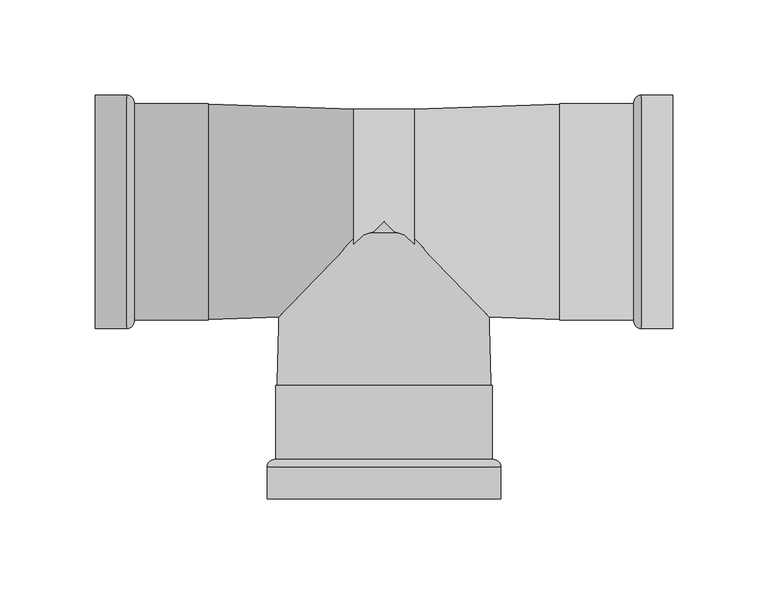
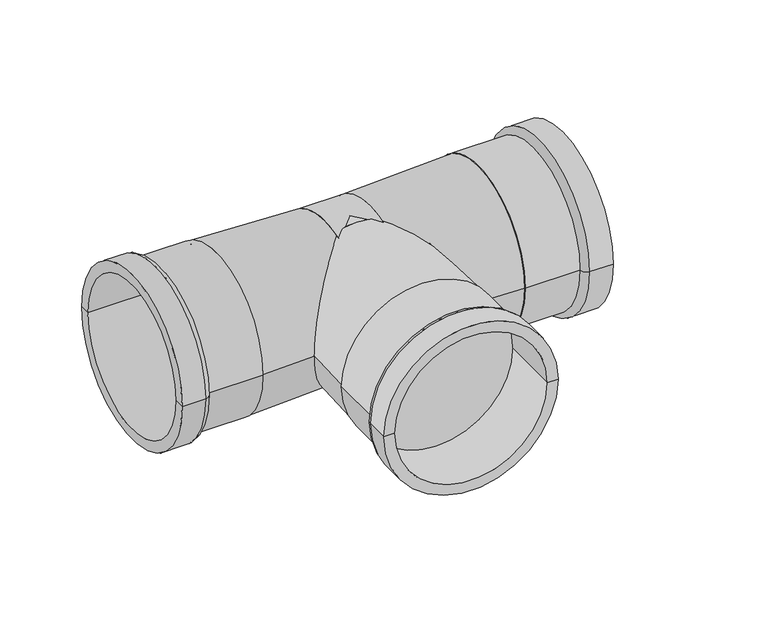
"""IFC4 building model written with IfcOpenShell, lengths in millimetres: pipe fitting geometry, VALTEC_VTi.931.I_Тройник_Ннержавеющая сталь : VTi.931.I."""

from ifc_helpers import new_model, si_unit, point, frame, origin, origin_2d, place, context, project, spatial, polyline, circle_curve, ellipse_curve, trimmed, segment, composite_curve, outline, extrude, source, transform, mapped, element, save
from ifc_brep_helpers import plane_surface, cylinder_surface, revolved_surface, advanced_brep


def pipe_fitting_a23f0387(model_context):
    return source(origin(), model_context, "Body", "SolidModel", [
        advanced_brep(
        [(-54.0, -151.0, 0.0), (-61.5, -151.0, 0.0), (61.5, -151.0, 0.0), (54.0, -151.0, 0.0), (-54.0, -91.5, 0.0), (54.0, -91.5, 0.0), (-57.0, -91.5, 0.0), (57.0, -91.5, 0.0), (-57.0, -130.28, 0.0), (57.0, -130.28, 0.0), (-61.5, -134.3, 0.0), (61.5, -134.3, 0.0)],
        [
            (0, 1),
            (1, 2, circle_curve(frame((0.0, -151.0, 0.0), z_axis=(0.0, -1.0, 0.0), x_axis=(1.0, 0.0, 0.0)), 61.5)),
            (2, 3),
            (3, 0, circle_curve(frame((0.0, -151.0, 0.0), z_axis=(0.0, 1.0, 0.0), x_axis=(1.0, 0.0, 0.0)), 54.0)),
            (2, 1, circle_curve(frame((0.0, -151.0, 0.0), z_axis=(0.0, -1.0, 0.0), x_axis=(1.0, 0.0, 0.0)), 61.5)),
            (0, 3, circle_curve(frame((0.0, -151.0, 0.0), z_axis=(0.0, 1.0, 0.0), x_axis=(1.0, 0.0, 0.0)), 54.0)),
            (4, 0),
            (3, 5),
            (5, 4, circle_curve(frame((0.0, -91.5, 0.0), z_axis=(0.0, 1.0, 0.0), x_axis=(1.0, 0.0, 0.0)), 54.0)),
            (4, 5, circle_curve(frame((0.0, -91.5, 0.0), z_axis=(0.0, 1.0, 0.0), x_axis=(1.0, 0.0, 0.0)), 54.0)),
            (6, 4),
            (5, 7),
            (7, 6, circle_curve(frame((0.0, -91.5, 0.0), z_axis=(0.0, 1.0, 0.0), x_axis=(1.0, 0.0, 0.0)), 57.0)),
            (6, 7, circle_curve(frame((0.0, -91.5, 0.0), z_axis=(0.0, 1.0, 0.0), x_axis=(1.0, 0.0, 0.0)), 57.0)),
            (8, 6),
            (7, 9),
            (9, 8, circle_curve(frame((0.0, -130.28, 0.0), z_axis=(0.0, 1.0, 0.0), x_axis=(1.0, 0.0, 0.0)), 57.0)),
            (8, 9, circle_curve(frame((0.0, -130.28, 0.0), z_axis=(0.0, 1.0, 0.0), x_axis=(1.0, 0.0, 0.0)), 57.0)),
            (10, 8, circle_curve(frame((-57.112345, -134.6828974, 0.0), z_axis=(0.0, 0.0, -1.0), x_axis=(0.0, 1.0, 0.0)), 4.4043305)),
            (9, 11, circle_curve(frame((57.112345, -134.6828974, 0.0), z_axis=(0.0, 0.0, -1.0), x_axis=(0.0, 1.0, 0.0)), 4.4043305)),
            (11, 10, circle_curve(frame((0.0, -134.3, 0.0), z_axis=(0.0, 1.0, 0.0), x_axis=(1.0, 0.0, 0.0)), 61.5)),
            (10, 11, circle_curve(frame((0.0, -134.3, 0.0), z_axis=(0.0, 1.0, 0.0), x_axis=(1.0, 0.0, 0.0)), 61.5)),
            (1, 10),
            (11, 2),
        ],
        [
            plane_surface(frame((0.0, -151.0, 0.0), z_axis=(0.0, -1.0, 0.0), x_axis=(1.0, 0.0, 0.0))),
            revolved_surface(polyline([(54.0, -151.0, 0.0), (54.0, -91.5, 0.0)]), (0.0, -120.6806392, 0.0), (0.0, -1.0, 0.0)),
            plane_surface(frame((0.0, -91.5, 0.0), z_axis=(0.0, 1.0, 0.0), x_axis=(1.0, 0.0, 0.0))),
            cylinder_surface(frame((0.0, -120.6806392, 0.0), z_axis=(0.0, -1.0, 0.0), x_axis=(1.0, 0.0, 0.0)), 57.0),
            revolved_surface(trimmed(ellipse_curve(frame((57.112345, -134.6828974, 0.0), z_axis=(0.0, 0.0, -1.0), x_axis=(0.0, 1.0, 0.0)), 4.4043305, 4.4043305), [point((57.0, -130.28, 0.0))], [point((61.5, -134.3, 0.0))], True, "CARTESIAN"), (0.0, -120.6806392, 0.0), (0.0, -1.0, 0.0)),
            cylinder_surface(frame((0.0, -120.6806392, 0.0), z_axis=(0.0, -1.0, 0.0), x_axis=(1.0, 0.0, 0.0)), 61.5),
        ],
        [
            (0, [[1, 2, 3, 4]]),
            (0, [[-3, 5, -1, 6]]),
            (1, [[7, -4, 8, 9]]),
            (1, [[-8, -6, -7, 10]]),
            (2, [[11, -9, 12, 13]]),
            (2, [[-12, -10, -11, 14]]),
            (3, [[15, -13, 16, 17]]),
            (3, [[-16, -14, -15, 18]]),
            (4, [[19, -17, 20, 21]]),
            (4, [[-20, -18, -19, 22]]),
            (5, [[23, -21, 24, -2]]),
            (5, [[-24, -22, -23, -5]]),
        ],
    ),
        advanced_brep(
        [(152.0, -54.0, 0.0), (152.0, -61.5, 0.0), (152.0, 61.5, 0.0), (152.0, 54.0, 0.0), (92.5, -54.0, 0.0), (92.5, 54.0, 0.0), (92.5, -57.0, 0.0), (92.5, 57.0, 0.0), (131.28, -57.0, 0.0), (131.28, 57.0, 0.0), (135.3, -61.5, 0.0), (135.3, 61.5, 0.0)],
        [
            (0, 1),
            (1, 2, circle_curve(frame((152.0, 0.0, 0.0), z_axis=(1.0, 0.0, 0.0), x_axis=(0.0, 1.0, 0.0)), 61.5)),
            (2, 3),
            (3, 0, circle_curve(frame((152.0, 0.0, 0.0), z_axis=(-1.0, 0.0, 0.0), x_axis=(0.0, 1.0, 0.0)), 54.0)),
            (2, 1, circle_curve(frame((152.0, 0.0, 0.0), z_axis=(1.0, 0.0, 0.0), x_axis=(0.0, 1.0, 0.0)), 61.5)),
            (0, 3, circle_curve(frame((152.0, 0.0, 0.0), z_axis=(-1.0, 0.0, 0.0), x_axis=(0.0, 1.0, 0.0)), 54.0)),
            (4, 0),
            (3, 5),
            (5, 4, circle_curve(frame((92.5, 0.0, 0.0), z_axis=(-1.0, 0.0, 0.0), x_axis=(0.0, 1.0, 0.0)), 54.0)),
            (4, 5, circle_curve(frame((92.5, 0.0, 0.0), z_axis=(-1.0, 0.0, 0.0), x_axis=(0.0, 1.0, 0.0)), 54.0)),
            (6, 4),
            (5, 7),
            (7, 6, circle_curve(frame((92.5, 0.0, 0.0), z_axis=(-1.0, 0.0, 0.0), x_axis=(0.0, 1.0, 0.0)), 57.0)),
            (6, 7, circle_curve(frame((92.5, 0.0, 0.0), z_axis=(-1.0, 0.0, 0.0), x_axis=(0.0, 1.0, 0.0)), 57.0)),
            (8, 6),
            (7, 9),
            (9, 8, circle_curve(frame((131.28, 0.0, 0.0), z_axis=(-1.0, 0.0, 0.0), x_axis=(0.0, 1.0, 0.0)), 57.0)),
            (8, 9, circle_curve(frame((131.28, 0.0, 0.0), z_axis=(-1.0, 0.0, 0.0), x_axis=(0.0, 1.0, 0.0)), 57.0)),
            (10, 8, circle_curve(frame((135.6828974, -57.112345, 0.0), z_axis=(0.0, 0.0, -1.0), x_axis=(-1.0, 0.0, 0.0)), 4.4043305)),
            (9, 11, circle_curve(frame((135.6828974, 57.112345, 0.0), z_axis=(0.0, 0.0, -1.0), x_axis=(-1.0, 0.0, 0.0)), 4.4043305)),
            (11, 10, circle_curve(frame((135.3, 0.0, 0.0), z_axis=(-1.0, 0.0, 0.0), x_axis=(0.0, 1.0, 0.0)), 61.5)),
            (10, 11, circle_curve(frame((135.3, 0.0, 0.0), z_axis=(-1.0, 0.0, 0.0), x_axis=(0.0, 1.0, 0.0)), 61.5)),
            (1, 10),
            (11, 2),
        ],
        [
            plane_surface(frame((152.0, 0.0, 0.0), z_axis=(1.0, 0.0, 0.0), x_axis=(0.0, 1.0, 0.0))),
            revolved_surface(polyline([(152.0, 54.0, 0.0), (92.5, 54.0, 0.0)]), (121.6806392, 0.0, 0.0), (1.0, 0.0, 0.0)),
            plane_surface(frame((92.5, 0.0, 0.0), z_axis=(-1.0, 0.0, 0.0), x_axis=(0.0, 1.0, 0.0))),
            cylinder_surface(frame((121.6806392, 0.0, 0.0), z_axis=(1.0, 0.0, 0.0), x_axis=(0.0, 1.0, 0.0)), 57.0),
            revolved_surface(trimmed(ellipse_curve(frame((135.6828974, 57.112345, 0.0), z_axis=(0.0, 0.0, -1.0), x_axis=(-1.0, 0.0, 0.0)), 4.4043305, 4.4043305), [point((131.28, 57.0, 0.0))], [point((135.3, 61.5, 0.0))], True, "CARTESIAN"), (121.6806392, 0.0, 0.0), (1.0, 0.0, 0.0)),
            cylinder_surface(frame((121.6806392, 0.0, 0.0), z_axis=(1.0, 0.0, 0.0), x_axis=(0.0, 1.0, 0.0)), 61.5),
        ],
        [
            (0, [[1, 2, 3, 4]]),
            (0, [[-3, 5, -1, 6]]),
            (1, [[7, -4, 8, 9]]),
            (1, [[-8, -6, -7, 10]]),
            (2, [[11, -9, 12, 13]]),
            (2, [[-12, -10, -11, 14]]),
            (3, [[15, -13, 16, 17]]),
            (3, [[-16, -14, -15, 18]]),
            (4, [[19, -17, 20, 21]]),
            (4, [[-20, -18, -19, 22]]),
            (5, [[23, -21, 24, -2]]),
            (5, [[-24, -22, -23, -5]]),
        ],
    ),
        advanced_brep(
        [(-152.0, -54.0, 0.0), (-152.0, 54.0, 0.0), (-152.0, 61.5, 0.0), (-152.0, -61.5, 0.0), (-92.5, -54.0, 0.0), (-92.5, 54.0, 0.0), (-92.5, -57.0, 0.0), (-92.5, 57.0, 0.0), (-131.28, -57.0, 0.0), (-131.28, 57.0, 0.0), (-135.3, -61.5, 0.0), (-135.3, 61.5, 0.0)],
        [
            (0, 1, circle_curve(frame((-152.0, 0.0, 0.0), z_axis=(1.0, 0.0, 0.0), x_axis=(0.0, 1.0, 0.0)), 54.0)),
            (1, 2),
            (2, 3, circle_curve(frame((-152.0, 0.0, 0.0), z_axis=(-1.0, 0.0, 0.0), x_axis=(0.0, 1.0, 0.0)), 61.5)),
            (3, 0),
            (1, 0, circle_curve(frame((-152.0, 0.0, 0.0), z_axis=(1.0, 0.0, 0.0), x_axis=(0.0, 1.0, 0.0)), 54.0)),
            (3, 2, circle_curve(frame((-152.0, 0.0, 0.0), z_axis=(-1.0, 0.0, 0.0), x_axis=(0.0, 1.0, 0.0)), 61.5)),
            (4, 5, circle_curve(frame((-92.5, 0.0, 0.0), z_axis=(1.0, 0.0, 0.0), x_axis=(0.0, 1.0, 0.0)), 54.0)),
            (5, 1),
            (0, 4),
            (5, 4, circle_curve(frame((-92.5, 0.0, 0.0), z_axis=(1.0, 0.0, 0.0), x_axis=(0.0, 1.0, 0.0)), 54.0)),
            (6, 7, circle_curve(frame((-92.5, 0.0, 0.0), z_axis=(1.0, 0.0, 0.0), x_axis=(0.0, 1.0, 0.0)), 57.0)),
            (7, 5),
            (4, 6),
            (7, 6, circle_curve(frame((-92.5, 0.0, 0.0), z_axis=(1.0, 0.0, 0.0), x_axis=(0.0, 1.0, 0.0)), 57.0)),
            (8, 9, circle_curve(frame((-131.28, 0.0, 0.0), z_axis=(1.0, 0.0, 0.0), x_axis=(0.0, 1.0, 0.0)), 57.0)),
            (9, 7),
            (6, 8),
            (9, 8, circle_curve(frame((-131.28, 0.0, 0.0), z_axis=(1.0, 0.0, 0.0), x_axis=(0.0, 1.0, 0.0)), 57.0)),
            (10, 11, circle_curve(frame((-135.3, 0.0, 0.0), z_axis=(1.0, 0.0, 0.0), x_axis=(0.0, 1.0, 0.0)), 61.5)),
            (11, 9, circle_curve(frame((-135.6828974, 57.112345, 0.0), z_axis=(0.0, 0.0, -1.0), x_axis=(1.0, 0.0, 0.0)), 4.4043305)),
            (8, 10, circle_curve(frame((-135.6828974, -57.112345, 0.0), z_axis=(0.0, 0.0, -1.0), x_axis=(1.0, 0.0, 0.0)), 4.4043305)),
            (11, 10, circle_curve(frame((-135.3, 0.0, 0.0), z_axis=(1.0, 0.0, 0.0), x_axis=(0.0, 1.0, 0.0)), 61.5)),
            (2, 11),
            (10, 3),
        ],
        [
            plane_surface(frame((-152.0, 0.0, 0.0), z_axis=(-1.0, 0.0, 0.0), x_axis=(0.0, 1.0, 0.0))),
            revolved_surface(polyline([(-152.0, 54.0, 0.0), (-92.5, 54.0, 0.0)]), (-121.6806392, 0.0, 0.0), (-1.0, 0.0, 0.0)),
            plane_surface(frame((-92.5, 0.0, 0.0), z_axis=(1.0, 0.0, 0.0), x_axis=(0.0, 1.0, 0.0))),
            cylinder_surface(frame((-121.6806392, 0.0, 0.0), z_axis=(-1.0, 0.0, 0.0), x_axis=(0.0, 1.0, 0.0)), 57.0),
            revolved_surface(trimmed(ellipse_curve(frame((-135.6828974, 57.112345, 0.0), z_axis=(0.0, 0.0, 1.0), x_axis=(1.0, 0.0, 0.0)), 4.4043305, 4.4043305), [point((-131.28, 57.0, 0.0))], [point((-135.3, 61.5, 0.0))], True, "CARTESIAN"), (-121.6806392, 0.0, 0.0), (-1.0, 0.0, 0.0)),
            cylinder_surface(frame((-121.6806392, 0.0, 0.0), z_axis=(-1.0, 0.0, 0.0), x_axis=(0.0, 1.0, 0.0)), 61.5),
        ],
        [
            (0, [[1, 2, 3, 4]]),
            (0, [[5, -4, 6, -2]]),
            (1, [[7, 8, -1, 9]]),
            (1, [[10, -9, -5, -8]]),
            (2, [[11, 12, -7, 13]]),
            (2, [[14, -13, -10, -12]]),
            (3, [[15, 16, -11, 17]]),
            (3, [[18, -17, -14, -16]]),
            (4, [[19, 20, -15, 21]]),
            (4, [[22, -21, -18, -20]]),
            (5, [[-3, 23, -19, 24]]),
            (5, [[-6, -24, -22, -23]]),
        ],
    ),
        extrude(outline(composite_curve([segment(trimmed(circle_curve(origin_2d(), 54.0), [point((-54.0, 0.0))], [point((54.0, 0.0))], False, "CARTESIAN"), True, "CONTINUOUS"), segment(trimmed(circle_curve(origin_2d(), 54.0), [point((54.0, 0.0))], [point((-54.0, 0.0))], False, "CARTESIAN"), True, "CONTINUOUS")], self_intersect=False)), frame((-16.0, 0.0, 0.0), z_axis=(1.0, 0.0, 0.0), x_axis=(0.0, 1.0, 0.0)), (0.0, 0.0, 1.0), 32.0),
        advanced_brep(
        [(-56.7, -109.0, 0.0), (56.7, -109.0, 0.0), (-54.0, -11.3209826, 0.0), (54.0, -11.3209826, 0.0)],
        [
            (0, 1, circle_curve(frame((0.0, -109.0, 0.0), z_axis=(0.0, -1.0, 0.0), x_axis=(-1.0, 0.0, 0.0)), 56.7)),
            (1, 0, circle_curve(frame((0.0, -109.0, 0.0), z_axis=(0.0, -1.0, 0.0), x_axis=(1.0, 0.0, 0.0)), 56.7)),
            (2, 3, circle_curve(frame((0.0, -11.3209826, 0.0), z_axis=(0.0, 1.0, 0.0), x_axis=(1.0, 0.0, 0.0)), 54.0)),
            (3, 2, circle_curve(frame((0.0, -11.3209826, 0.0), z_axis=(0.0, 1.0, 0.0), x_axis=(-1.0, 0.0, 0.0)), 54.0)),
            (3, 1),
            (0, 2),
        ],
        [
            plane_surface(frame((0.0, -109.0, 0.0), z_axis=(0.0, -1.0, 0.0), x_axis=(0.0, 0.0, 1.0))),
            plane_surface(frame((0.0, -11.3209826, 0.0), z_axis=(0.0, 1.0, 0.0), x_axis=(0.0, 0.0, 1.0))),
            revolved_surface(polyline([(54.00000000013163, -11.32098259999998, 0.0), (56.7, -109.0, 0.0)]), (0.0, 1942.2593655, 0.0), (0.0, -1.0, 0.0)),
            revolved_surface(polyline([(-54.00000000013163, -11.32098259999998, 0.0), (-56.7, -109.0, 0.0)]), (0.0, 1942.2593655, 0.0), (0.0, -1.0, 0.0)),
        ],
        [
            (0, [[1, 2]]),
            (1, [[3, 4]]),
            (2, [[-4, 5, -1, 6]]),
            (3, [[-3, -6, -2, -5]]),
        ],
    ),
        extrude(outline(composite_curve([segment(trimmed(circle_curve(origin_2d(), 54.0), [point((0.0, -54.0))], [point((0.0, 54.0))], False, "CARTESIAN"), True, "CONTINUOUS"), segment(trimmed(circle_curve(origin_2d(), 54.0), [point((0.0, 54.0))], [point((0.0, -54.0))], False, "CARTESIAN"), True, "CONTINUOUS")], self_intersect=False)), frame((0.0, -11.3209826, 0.0), z_axis=(0.0, 1.0, 0.0), x_axis=(0.0, 0.0, 1.0)), (0.0, 0.0, 1.0), 11.3209826),
        advanced_brep(
        [(92.5, -56.7, 0.0), (92.5, 56.7, 0.0), (16.0, -54.0, 0.0), (16.0, 54.0, 0.0)],
        [
            (0, 1, circle_curve(frame((92.5, 0.0, 0.0), z_axis=(1.0, 0.0, 0.0), x_axis=(0.0, -1.0, 0.0)), 56.7)),
            (1, 0, circle_curve(frame((92.5, 0.0, 0.0), z_axis=(1.0, 0.0, 0.0), x_axis=(0.0, 1.0, 0.0)), 56.7)),
            (2, 3, circle_curve(frame((16.0, 0.0, 0.0), z_axis=(-1.0, 0.0, 0.0), x_axis=(0.0, 1.0, 0.0)), 54.0)),
            (3, 2, circle_curve(frame((16.0, 0.0, 0.0), z_axis=(-1.0, 0.0, 0.0), x_axis=(0.0, -1.0, 0.0)), 54.0)),
            (3, 1),
            (0, 2),
        ],
        [
            plane_surface(frame((92.5, 0.0, 0.0), z_axis=(1.0, 0.0, 0.0), x_axis=(0.0, 0.0, 1.0))),
            plane_surface(frame((16.0, 0.0, 0.0), z_axis=(-1.0, 0.0, 0.0), x_axis=(0.0, 0.0, 1.0))),
            revolved_surface(polyline([(16.0, 54.0, 0.0), (92.5, 56.7, 0.0)]), (-1514.0, 0.0, 0.0), (1.0, 0.0, 0.0)),
            revolved_surface(polyline([(16.0, -54.0, 0.0), (92.5, -56.7, 0.0)]), (-1514.0, 0.0, 0.0), (1.0, 0.0, 0.0)),
        ],
        [
            (0, [[1, 2]]),
            (1, [[3, 4]]),
            (2, [[-4, 5, -1, 6]]),
            (3, [[-3, -6, -2, -5]]),
        ],
    ),
        advanced_brep(
        [(-92.5, -56.7, 0.0), (-92.5, 56.7, 0.0), (-16.0, -54.0, 0.0), (-16.0, 54.0, 0.0)],
        [
            (0, 1, circle_curve(frame((-92.5, 0.0, 0.0), z_axis=(-1.0, 0.0, 0.0), x_axis=(0.0, -1.0, 0.0)), 56.7)),
            (1, 0, circle_curve(frame((-92.5, 0.0, 0.0), z_axis=(-1.0, 0.0, 0.0), x_axis=(0.0, 1.0, 0.0)), 56.7)),
            (2, 3, circle_curve(frame((-16.0, 0.0, 0.0), z_axis=(1.0, 0.0, 0.0), x_axis=(0.0, 1.0, 0.0)), 54.0)),
            (3, 2, circle_curve(frame((-16.0, 0.0, 0.0), z_axis=(1.0, 0.0, 0.0), x_axis=(0.0, -1.0, 0.0)), 54.0)),
            (2, 0),
            (1, 3),
        ],
        [
            plane_surface(frame((-92.5, 0.0, 0.0), z_axis=(-1.0, 0.0, 0.0), x_axis=(0.0, 0.0, -1.0))),
            plane_surface(frame((-16.0, 0.0, 0.0), z_axis=(1.0, 0.0, 0.0), x_axis=(0.0, 0.0, -1.0))),
            revolved_surface(polyline([(-16.0, -54.0, 0.0), (-92.5, -56.7, 0.0)]), (1514.0, 0.0, 0.0), (-1.0, 0.0, 0.0)),
            revolved_surface(polyline([(-16.0, 54.0, 0.0), (-92.5, 56.7, 0.0)]), (1514.0, 0.0, 0.0), (-1.0, 0.0, 0.0)),
        ],
        [
            (0, [[1, 2]]),
            (1, [[3, 4]]),
            (2, [[-3, 5, -2, 6]]),
            (3, [[-4, -6, -1, -5]]),
        ],
    ),
    ])


if __name__ == "__main__":
    model = new_model("IFC4")
    model_context = context("Model", 3, world=origin())
    ifc_project = project(units=[si_unit("LENGTHUNIT", "METRE", prefix="MILLI")], contexts=[model_context])
    site = spatial("IfcSite", under=ifc_project)
    building = spatial("IfcBuilding", under=site)
    placement = place(None, origin())
    pipe_fitting_shape = pipe_fitting_a23f0387(model_context)
    element("IfcPipeFitting", 1, ObjectType="VALTEC_VTi.931.I_Тройник_Ннержавеющая сталь : VTi.931.I", at=placement, inside=building, context=model_context, shape_type="MappedRepresentation", body=[
        mapped(pipe_fitting_shape, transform((0.0, 0.0, 0.0), x_axis=(1.0, 0.0, 0.0), y_axis=(0.0, 1.0, 0.0), z_axis=(0.0, 0.0, 1.0))),
    ])
    save(model, "model.ifc")
